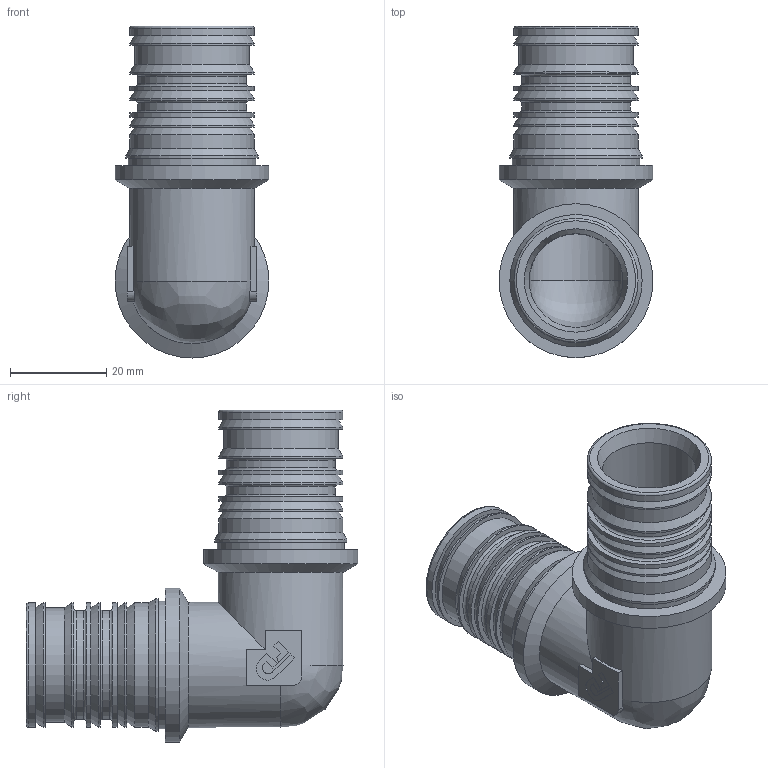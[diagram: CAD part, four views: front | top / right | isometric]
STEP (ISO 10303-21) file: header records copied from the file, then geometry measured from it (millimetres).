
FILE_DESCRIPTION(/* description */ (''),/* implementation_level */ '2;1');
FILE_NAME(/* name */ 'C:\Users\Doom\Desktop\Фадотех\Пресс\HDU04-1 15.01.2020\HDU04-1 15.01.2020.stp',/* time_stamp */ '2022-08-13T10:14:55+03:00',/* author */ ('Doom'),/* organization */ (''),/* preprocessor_version */ 'ST-DEVELOPER v18',/* originating_system */ 'Autodesk Inventor 2020',/* authorisation */ '');
FILE_SCHEMA (('AUTOMOTIVE_DESIGN { 1 0 10303 214 3 1 1 }'));
Length unit declared in the file: millimetre
Products named in the file (1): HDU01-1 15.01.2020
Bounding box: 32 x 68.9 x 69 mm (x, y, z)
Volume: 23647.2 mm3; surface area: 18065.9 mm2
Topology: 1 solids, 1 shells, 140 faces, 399 edges, 285 vertices
Faces by surface type: plane 70, cylinder 34, cone 16, torus 10, bspline 10
Full cylindrical faces by diameter (mm): 19.5 x2, 22.6 x4, 23.8 x2, 25.8 x16, 26 x2, 26.5 x2, 27.5 x2, 32 x2
Entity records: 4913 total; most frequent: CARTESIAN_POINT 1049, DIRECTION 830, ORIENTED_EDGE 794, EDGE_CURVE 397, AXIS2_PLACEMENT_3D 328, VERTEX_POINT 285, CIRCLE 194, LINE 174
